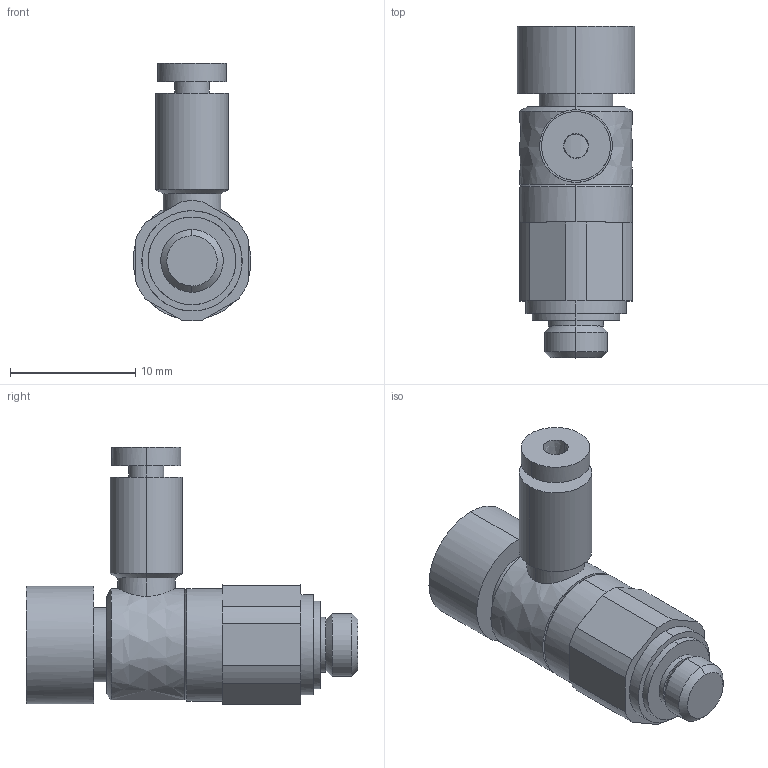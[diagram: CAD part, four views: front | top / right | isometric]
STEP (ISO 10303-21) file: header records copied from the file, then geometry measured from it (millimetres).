
FILE_DESCRIPTION (( 'STEP AP214' ), '1' );
FILE_NAME ('AS1211FC-M5-02A.STEP', '2023-03-08T08:52:24', ( 'Windows User' ), ( 'P R C' ), 'SwSTEP 2.0', 'SolidWorks 2019', '' );
FILE_SCHEMA (( 'AUTOMOTIVE_DESIGN' ));
Length unit declared in the file: millimetre
Products named in the file (1): AS1211FC-M5-02A
Bounding box: 9.4 x 26.5 x 20.6 mm (x, y, z)
Volume: 1773.3 mm3; surface area: 1253 mm2
Topology: 1 solids, 1 shells, 68 faces, 149 edges, 94 vertices
Faces by surface type: bspline 43, plane 25
Entity records: 2464 total; most frequent: CARTESIAN_POINT 1456, ORIENTED_EDGE 298, EDGE_CURVE 149, B_SPLINE_CURVE_WITH_KNOTS 100, VERTEX_POINT 94, EDGE_LOOP 79, FACE_OUTER_BOUND 68, ADVANCED_FACE 68
